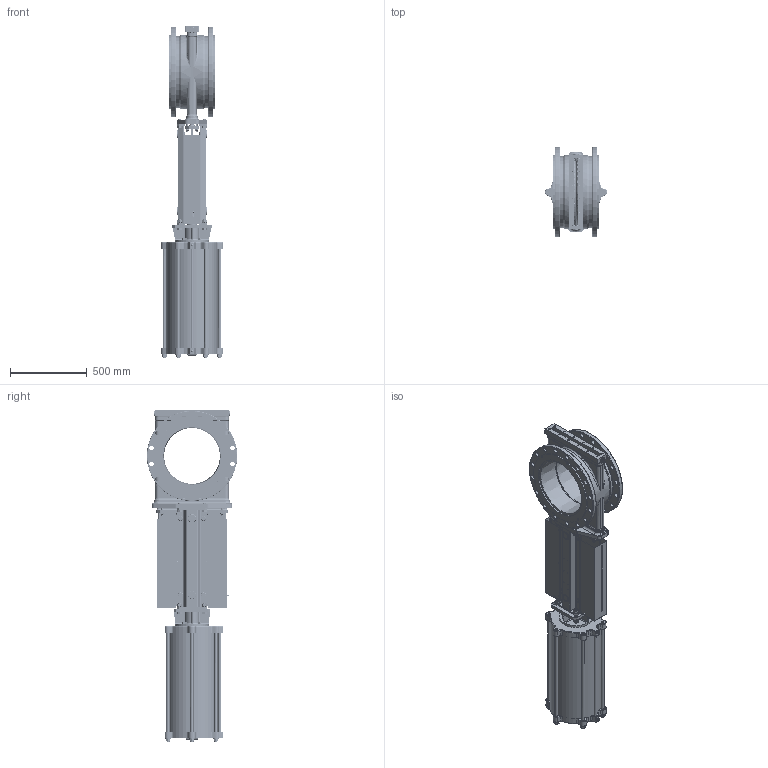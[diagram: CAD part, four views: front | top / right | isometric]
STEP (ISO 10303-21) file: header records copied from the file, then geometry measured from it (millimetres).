
FILE_DESCRIPTION(/* description */ (''),/* implementation_level */ '2;1');
FILE_NAME(/* name */ 'F:\3D-block färdiga för export\SLV-SLF\DN 400\SLF DN 400-ANSI150-FRSC320-500-LDR.stp',/* time_stamp */ '2021-06-16T14:10:22+02:00',/* author */ ('MATZET'),/* organization */ (''),/* preprocessor_version */ 'ST-DEVELOPER v18',/* originating_system */ 'Autodesk Inventor 2020',/* authorisation */ '');
FILE_SCHEMA (('AUTOMOTIVE_DESIGN { 1 0 10303 214 3 1 1 }'));
Length unit declared in the file: millimetre
Products named in the file (1): SLF DN 400-ANSI150-FRSC320-500-LDR_Shrinkwrap_1
Bounding box: 406 x 590 x 2168.5 mm (x, y, z)
Volume: 56744581.2 mm3; surface area: 8531409.5 mm2
Topology: 1 solids, 1 shells, 3253 faces, 8269 edges, 5247 vertices
Faces by surface type: plane 1224, cylinder 928, bspline 383, torus 311, cone 299, sphere 108
Full cylindrical faces by diameter (mm): 2.5 x8, 3.5 x4, 4 x24, 4.917 x7, 5 x8, 6 x13, 6.647 x4, 7 x12, 7.5 x16, 8.376 x4, 8.88 x1, 9.5 x2, 10 x12, 10.106 x2, 11 x12, 12 x18, 13 x8, 14 x7, 15 x9, 16 x6, 18 x1, 18.2 x4, 18.5 x2, 18.631 x2, 19 x8, 20 x20, 20.5 x2, 21 x10, 22 x6, 22.49 x4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
Entity records: 136314 total; most frequent: CARTESIAN_POINT 56005, DIRECTION 16575, ORIENTED_EDGE 16352, EDGE_CURVE 8176, AXIS2_PLACEMENT_3D 6826, VERTEX_POINT 5241, CIRCLE 3825, EDGE_LOOP 3807
